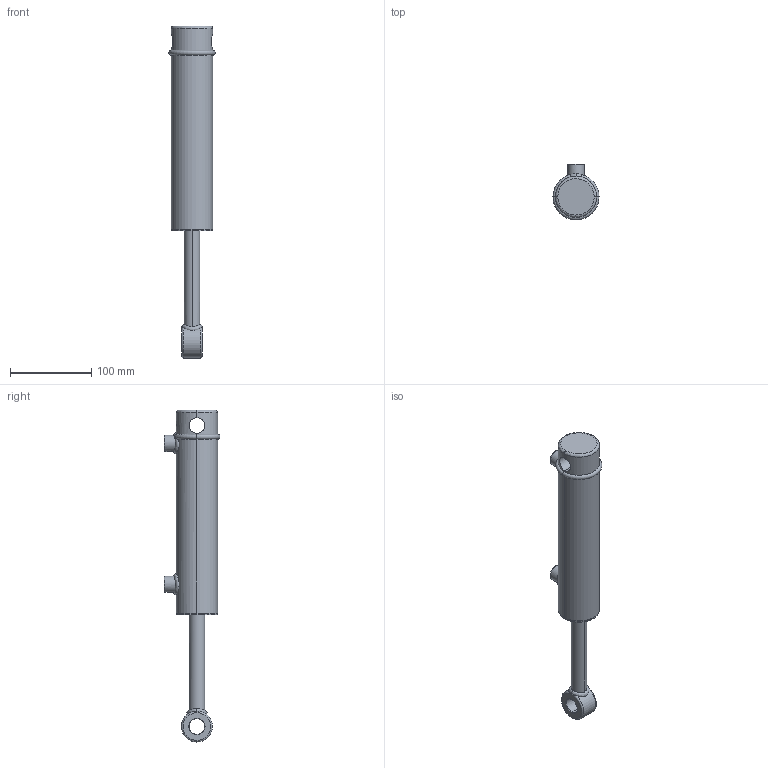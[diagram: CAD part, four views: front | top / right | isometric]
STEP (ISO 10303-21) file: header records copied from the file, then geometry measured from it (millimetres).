
FILE_DESCRIPTION (( 'STEP AP203' ), '1' );
FILE_NAME ('SB-C150075X152 (6) extended.STEP', '2014-12-18T17:28:53', ( '' ), ( '' ), 'SwSTEP 2.0', 'SolidWorks 2015', '' );
FILE_SCHEMA (( 'CONFIG_CONTROL_DESIGN' ));
Length unit declared in the file: millimetre
Products named in the file (3): SPARE_6; SB-C150075X152 (6) extended; BODY_6
Assembly tree (2 placements, depth 2):
  SB-C150075X152 (6) extended
    BODY_6
    SPARE_6
Bounding box: 56.7 x 68.75 x 408 mm (x, y, z)
Volume: 550809.3 mm3; surface area: 76146.5 mm2
Topology: 2 solids, 2 shells, 90 faces, 211 edges, 127 vertices
Faces by surface type: cylinder 32, torus 20, bspline 17, plane 13, cone 8
Entity records: 8172 total; most frequent: CARTESIAN_POINT 5968, ORIENTED_EDGE 414, DIRECTION 380, EDGE_CURVE 207, AXIS2_PLACEMENT_3D 169, VERTEX_POINT 127, EDGE_LOOP 104, CIRCLE 91
